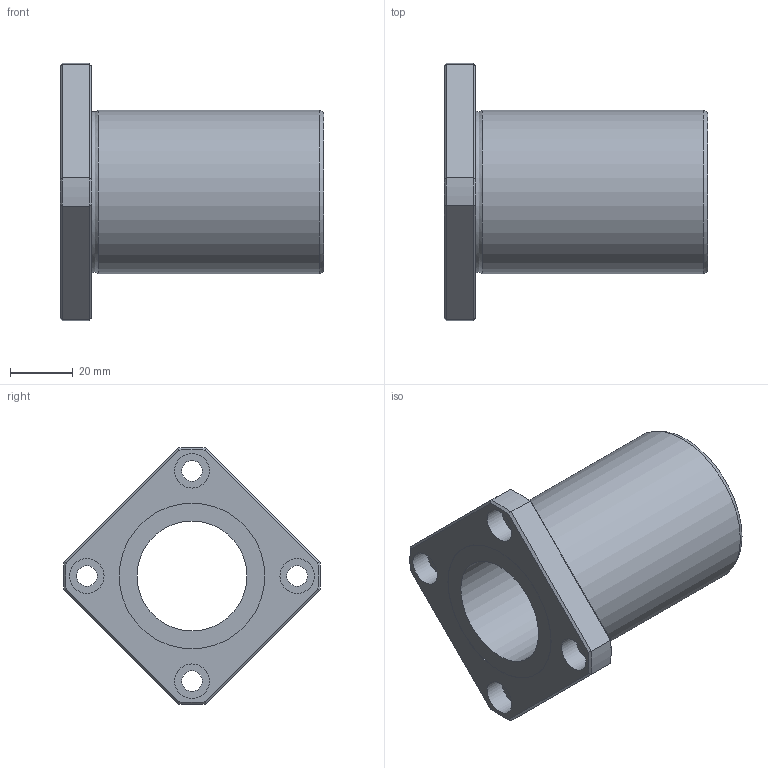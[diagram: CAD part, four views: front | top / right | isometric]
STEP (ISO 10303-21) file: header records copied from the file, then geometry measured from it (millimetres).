
FILE_DESCRIPTION((''),'2;1');
FILE_NAME('C:\Documents and Settings\土屋\My Documents\土屋移動用フォルダ\製品 (図面)\カタログ用3D\変換ファイル\OZAK_3D-CAD(STEP形式)\Part1.-Linear Bearings_ﾘﾆｱﾍﾞｱﾘﾝｸﾞ\09_Maintenance Free_ﾒｲﾝﾃﾅﾝｽﾌﾘｰ\L2017-09-21T11:57:30','2017-09-21T11:57:30',('y'),(''),'Autodesk Inventor 11','Autodesk Inventor 11','');
FILE_SCHEMA(('AUTOMOTIVE_DESIGN { 1 0 10303 214 1 1 1 1 }'));
Length unit declared in the file: millimetre
Products named in the file (1): LFK-MF
Bounding box: 84 x 81.94 x 81.94 mm (x, y, z)
Volume: 113120.2 mm3; surface area: 30550.4 mm2
Topology: 1 solids, 1 shells, 47 faces, 96 edges, 58 vertices
Faces by surface type: plane 21, cylinder 16, cone 8, torus 1, bspline 1
Full cylindrical faces by diameter (mm): 6.6 x4, 11 x4, 35 x1, 46.4 x2, 52 x1
Entity records: 1275 total; most frequent: CARTESIAN_POINT 298, DIRECTION 202, ORIENTED_EDGE 164, AXIS2_PLACEMENT_3D 89, EDGE_CURVE 82, EDGE_LOOP 78, VERTEX_POINT 58, FACE_OUTER_BOUND 47
